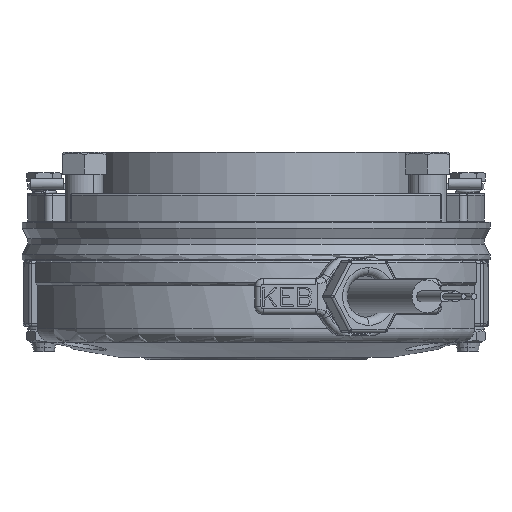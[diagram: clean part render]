
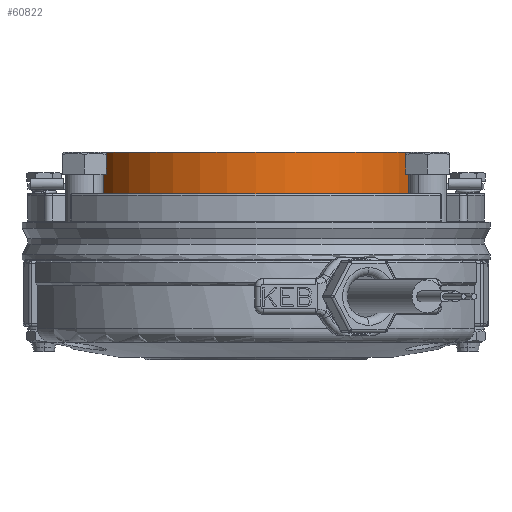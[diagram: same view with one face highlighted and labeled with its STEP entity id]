
A CAD part, front view. The second image highlights one B-rep face of the part: STEP entity #60822.
In plain terms, the highlighted cylindrical face has radius 30 mm (diameter 60 mm), a partial arc.
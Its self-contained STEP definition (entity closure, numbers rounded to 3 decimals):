
#27 = EDGE_CURVE ( 'NONE', #9009, #4266, #54604, .T. ) ;
#48 = LINE ( 'NONE', #24810, #28065 ) ;
#3789 = DIRECTION ( 'NONE',  ( 0., 0., -1. ) ) ;
#4266 = VERTEX_POINT ( 'NONE', #37299 ) ;
#4355 = EDGE_CURVE ( 'NONE', #57654, #12833, #48, .T. ) ;
#7432 = ORIENTED_EDGE ( 'NONE', *, *, #57635, .T. ) ;
#9009 = VERTEX_POINT ( 'NONE', #61654 ) ;
#9624 = CARTESIAN_POINT ( 'NONE',  ( -30., 0., 0. ) ) ;
#9713 = FACE_OUTER_BOUND ( 'NONE', #16266, .T. ) ;
#12833 = VERTEX_POINT ( 'NONE', #58033 ) ;
#13618 = DIRECTION ( 'NONE',  ( -1., 0., 0. ) ) ;
#15976 = CIRCLE ( 'NONE', #31612, 30. ) ;
#16266 = EDGE_LOOP ( 'NONE', ( #7432, #30081, #22383, #45873 ) ) ;
#19337 = CARTESIAN_POINT ( 'NONE',  ( 0., 0., -3.75 ) ) ;
#20068 = EDGE_CURVE ( 'NONE', #4266, #12833, #48652, .T. ) ;
#21631 = AXIS2_PLACEMENT_3D ( 'NONE', #19337, #28490, #58474 ) ;
#22383 = ORIENTED_EDGE ( 'NONE', *, *, #20068, .F. ) ;
#24810 = CARTESIAN_POINT ( 'NONE',  ( 30., 0., 0. ) ) ;
#26046 = DIRECTION ( 'NONE',  ( -1., 0., 0. ) ) ;
#28065 = VECTOR ( 'NONE', #29699, 1000. ) ;
#28490 = DIRECTION ( 'NONE',  ( 0., 0., -1. ) ) ;
#29574 = DIRECTION ( 'NONE',  ( 0., 0., -1. ) ) ;
#29699 = DIRECTION ( 'NONE',  ( 0., 0., -1. ) ) ;
#30081 = ORIENTED_EDGE ( 'NONE', *, *, #4355, .T. ) ;
#30293 = CARTESIAN_POINT ( 'NONE',  ( 0., 0., 3.75 ) ) ;
#31612 = AXIS2_PLACEMENT_3D ( 'NONE', #30293, #64491, #26046 ) ;
#36976 = VECTOR ( 'NONE', #3789, 1000. ) ;
#37299 = CARTESIAN_POINT ( 'NONE',  ( -30., 0., -3.75 ) ) ;
#45873 = ORIENTED_EDGE ( 'NONE', *, *, #27, .F. ) ;
#48153 = CARTESIAN_POINT ( 'NONE',  ( 0., 0., 0. ) ) ;
#48652 = CIRCLE ( 'NONE', #21631, 30. ) ;
#48779 = CYLINDRICAL_SURFACE ( 'NONE', #63272, 30. ) ;
#54604 = LINE ( 'NONE', #9624, #36976 ) ;
#57635 = EDGE_CURVE ( 'NONE', #9009, #57654, #15976, .T. ) ;
#57654 = VERTEX_POINT ( 'NONE', #59611 ) ;
#58033 = CARTESIAN_POINT ( 'NONE',  ( 30., 0., -3.75 ) ) ;
#58474 = DIRECTION ( 'NONE',  ( -1., 0., 0. ) ) ;
#59611 = CARTESIAN_POINT ( 'NONE',  ( 30., 0., 3.75 ) ) ;
#60822 = ADVANCED_FACE ( 'NONE', ( #9713 ), #48779, .T. ) ;
#61654 = CARTESIAN_POINT ( 'NONE',  ( -30., 0., 3.75 ) ) ;
#63272 = AXIS2_PLACEMENT_3D ( 'NONE', #48153, #29574, #13618 ) ;
#64491 = DIRECTION ( 'NONE',  ( 0., 0., -1. ) ) ;
